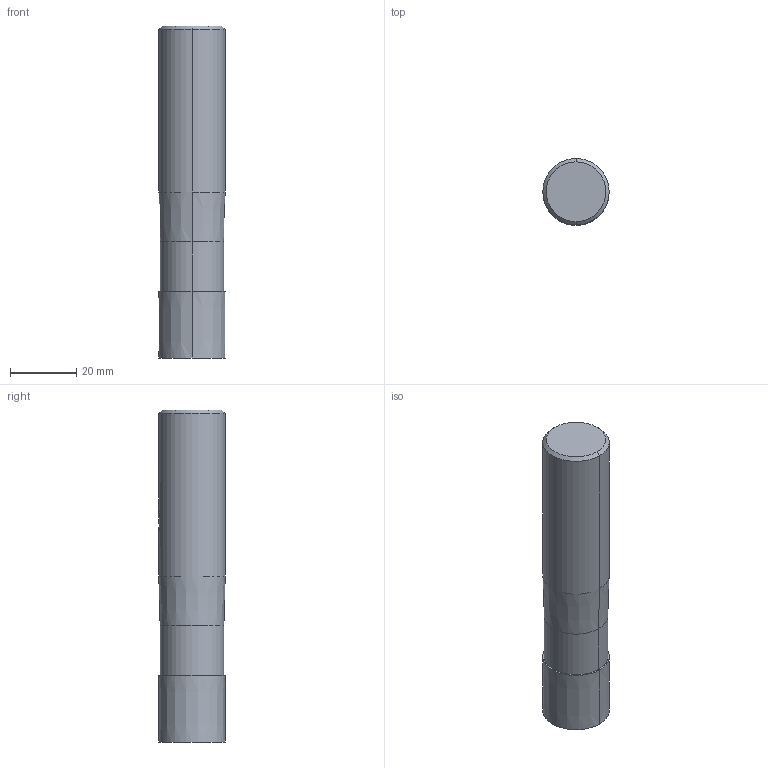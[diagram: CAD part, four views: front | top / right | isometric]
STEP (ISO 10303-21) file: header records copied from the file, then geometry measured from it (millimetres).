
FILE_DESCRIPTION(('no description'),'unknown implementation level');
FILE_NAME('solidjKXhRuXFeeu4hASZ9wfr6pRUtI0_1.STP',' ',('CIMSOURCE GmbH'),('CADClick - KiM GmbH - www.kimweb.de'),'unknown preprocess','ACIS','unknown authorization');
FILE_SCHEMA(('automotive_design'));
Length unit declared in the file: millimetre
Products named in the file (2): NOCUT; CUT
Bounding box: 20 x 20 x 100 mm (x, y, z)
Volume: 30802.5 mm3; surface area: 8464.9 mm2
Topology: 2 solids, 2 shells, 37 faces, 85 edges, 54 vertices
Faces by surface type: cylinder 16, plane 11, cone 10
Entity records: 2460 total; most frequent: CARTESIAN_POINT 562, DIRECTION 191, STYLED_ITEM 178, PRESENTATION_STYLE_ASSIGNMENT 178, COLOUR_RGB 178, ORIENTED_EDGE 170, EDGE_CURVE 85, CURVE_STYLE 85
